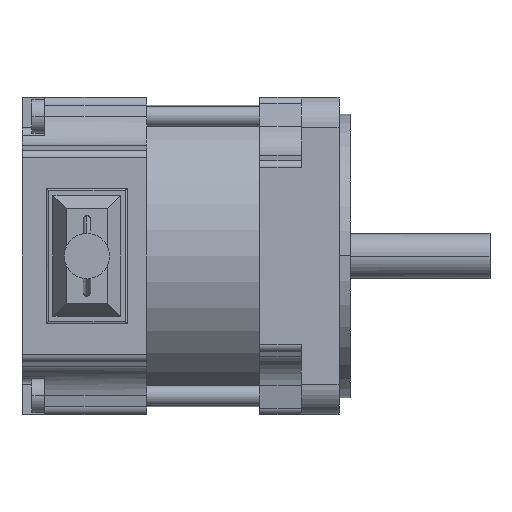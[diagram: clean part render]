
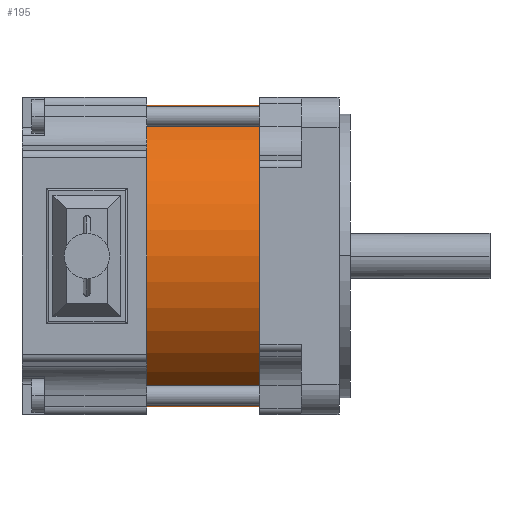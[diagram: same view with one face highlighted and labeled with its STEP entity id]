
A CAD part, front view. The second image highlights one B-rep face of the part: STEP entity #195.
In plain terms, the highlighted cylindrical face has radius 20 mm (diameter 40 mm), a partial arc.
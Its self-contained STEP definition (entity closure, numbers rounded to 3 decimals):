
#195 = ADVANCED_FACE( '', ( #507 ), #508, .T. );
#507 = FACE_OUTER_BOUND( '', #887, .T. );
#508 = CYLINDRICAL_SURFACE( '', #888, 20. );
#887 = EDGE_LOOP( '', ( #1932, #1933, #1934, #1935 ) );
#888 = AXIS2_PLACEMENT_3D( '', #1936, #1937, #1938 );
#1932 = ORIENTED_EDGE( '', *, *, #2436, .T. );
#1933 = ORIENTED_EDGE( '', *, *, #2742, .F. );
#1934 = ORIENTED_EDGE( '', *, *, #2438, .T. );
#1935 = ORIENTED_EDGE( '', *, *, #2743, .F. );
#1936 = CARTESIAN_POINT( '', ( -10.5, 0., 0. ) );
#1937 = DIRECTION( '', ( 1., 0., 0. ) );
#1938 = DIRECTION( '', ( 0., 0., -1. ) );
#2436 = EDGE_CURVE( '', #2904, #2905, #2906, .T. );
#2438 = EDGE_CURVE( '', #2909, #2907, #2910, .T. );
#2742 = EDGE_CURVE( '', #2909, #2905, #3418, .T. );
#2743 = EDGE_CURVE( '', #2904, #2907, #3419, .T. );
#2904 = VERTEX_POINT( '', #3664 );
#2905 = VERTEX_POINT( '', #3665 );
#2906 = LINE( '', #3666, #3667 );
#2907 = VERTEX_POINT( '', #3668 );
#2909 = VERTEX_POINT( '', #3670 );
#2910 = LINE( '', #3671, #3672 );
#3418 = CIRCLE( '', #4384, 20. );
#3419 = CIRCLE( '', #4385, 20. );
#3664 = CARTESIAN_POINT( '', ( -25.5, 0., -20. ) );
#3665 = CARTESIAN_POINT( '', ( -10.5, 0., -20. ) );
#3666 = CARTESIAN_POINT( '', ( -10.5, 0., -20. ) );
#3667 = VECTOR( '', #4702, 1. );
#3668 = CARTESIAN_POINT( '', ( -25.5, 0., 20. ) );
#3670 = CARTESIAN_POINT( '', ( -10.5, 0., 20. ) );
#3671 = CARTESIAN_POINT( '', ( -10.5, 0., 20. ) );
#3672 = VECTOR( '', #4706, 1. );
#4384 = AXIS2_PLACEMENT_3D( '', #5208, #5209, #5210 );
#4385 = AXIS2_PLACEMENT_3D( '', #5211, #5212, #5213 );
#4702 = DIRECTION( '', ( 1., 0., 0. ) );
#4706 = DIRECTION( '', ( -1., 0., 0. ) );
#5208 = CARTESIAN_POINT( '', ( -10.5, 0., 0. ) );
#5209 = DIRECTION( '', ( 1., 0., 0. ) );
#5210 = DIRECTION( '', ( 0., 0., -1. ) );
#5211 = CARTESIAN_POINT( '', ( -25.5, 0., 0. ) );
#5212 = DIRECTION( '', ( -1., 0., 0. ) );
#5213 = DIRECTION( '', ( 0., 0., -1. ) );
